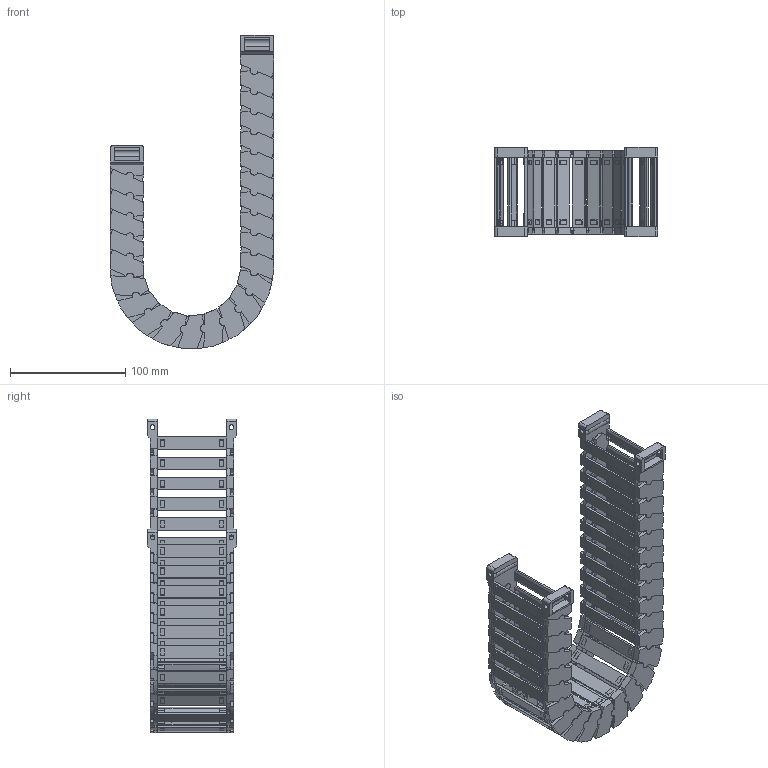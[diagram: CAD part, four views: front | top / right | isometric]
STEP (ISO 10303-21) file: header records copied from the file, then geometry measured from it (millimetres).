
FILE_DESCRIPTION(/* description */ (''),/* implementation_level */ '2;1');
FILE_NAME(/* name */ 'JY22-60-R55.stp',/* time_stamp */ '2026-06-20T14:50:40+08:00',/* author */ (''),/* organization */ (''),/* preprocessor_version */ 'ST-DEVELOPER v19.4',/* originating_system */ 'SIEMENS PLM Software NX2306.5001',/* authorisation */ '');
FILE_SCHEMA (('AP203_CONFIGURATION_CONTROLLED_3D_DESIGN_OF_MECHANICAL_PARTS_AND_ASSEMBLIES_MIM_LF { 1 0 10303 403 2 1 2}'));
Products named in the file (1): 简易图纸_Admi079CF058wvhx
Bounding box: 142.01 x 77.5 x 272.44 mm (x, y, z)
Volume: 237038.7 mm3; surface area: 212611.8 mm2
Topology: 26 solids, 26 shells, 4302 faces, 13928 edges, 9272 vertices
Faces by surface type: plane 3222, cylinder 684, cone 200, bspline 196
Full cylindrical faces by diameter (mm): 4.2 x8, 7 x50, 7.1 x50
Entity records: 160042 total; most frequent: CARTESIAN_POINT 37943, ORIENTED_EDGE 27424, DIRECTION 23666, EDGE_CURVE 13712, LINE 9376, VECTOR 9376, VERTEX_POINT 9164, AXIS2_PLACEMENT_3D 7145
